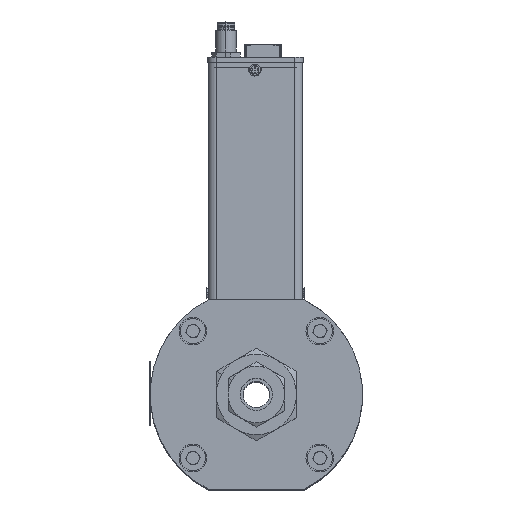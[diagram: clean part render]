
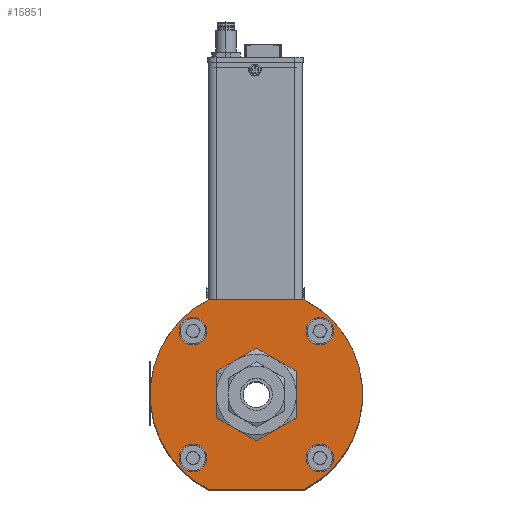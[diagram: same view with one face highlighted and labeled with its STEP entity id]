
A CAD part, top view. The second image highlights one B-rep face of the part: STEP entity #15851.
In plain terms, the highlighted planar face has unit normal (0, 0, 1).
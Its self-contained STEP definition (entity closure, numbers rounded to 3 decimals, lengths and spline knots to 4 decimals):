
#123 = DIRECTION ( 'NONE',  ( 0., 0., -1. ) ) ;
#139 = VECTOR ( 'NONE', #4485, 39.3701 ) ;
#564 = EDGE_CURVE ( 'NONE', #19852, #14832, #64936, .T. ) ;
#593 = CARTESIAN_POINT ( 'NONE',  ( -0.9748, 2.4579, 0. ) ) ;
#1728 = CARTESIAN_POINT ( 'NONE',  ( 1.0018, 0.2648, 0. ) ) ;
#2309 = DIRECTION ( 'NONE',  ( 0., 0., -1. ) ) ;
#2520 = CARTESIAN_POINT ( 'NONE',  ( 0.7659, 2.942, 0. ) ) ;
#2967 = PLANE ( 'NONE',  #41680 ) ;
#3198 = EDGE_LOOP ( 'NONE', ( #27589, #78157 ) ) ;
#4469 = AXIS2_PLACEMENT_3D ( 'NONE', #36686, #49837, #23149 ) ;
#4485 = DIRECTION ( 'NONE',  ( -1., 0., 0. ) ) ;
#4510 = VERTEX_POINT ( 'NONE', #82015 ) ;
#6005 = AXIS2_PLACEMENT_3D ( 'NONE', #20526, #47226, #71623 ) ;
#7827 = EDGE_LOOP ( 'NONE', ( #79501, #18750 ) ) ;
#9178 = DIRECTION ( 'NONE',  ( 0., -1., 0. ) ) ;
#9268 = LINE ( 'NONE', #55718, #63637 ) ;
#10305 = DIRECTION ( 'NONE',  ( 0., 1., 0. ) ) ;
#10397 = DIRECTION ( 'NONE',  ( 0., 1., 0. ) ) ;
#10950 = CARTESIAN_POINT ( 'NONE',  ( -0.9748, 2.6744, 0. ) ) ;
#11001 = EDGE_CURVE ( 'NONE', #50097, #48758, #49764, .T. ) ;
#12013 = ORIENTED_EDGE ( 'NONE', *, *, #59746, .T. ) ;
#13518 = AXIS2_PLACEMENT_3D ( 'NONE', #22793, #82365, #9178 ) ;
#14468 = EDGE_CURVE ( 'NONE', #30478, #51577, #40470, .T. ) ;
#14832 = VERTEX_POINT ( 'NONE', #51590 ) ;
#15265 = AXIS2_PLACEMENT_3D ( 'NONE', #33137, #32295, #71732 ) ;
#15851 = ADVANCED_FACE ( 'NONE', ( #49825, #62994, #16544, #23136, #84439, #76566 ), #2967, .T. ) ;
#16139 = CARTESIAN_POINT ( 'NONE',  ( 1.0018, 0.4813, 0. ) ) ;
#16544 = FACE_BOUND ( 'NONE', #19234, .T. ) ;
#18750 = ORIENTED_EDGE ( 'NONE', *, *, #564, .T. ) ;
#19234 = EDGE_LOOP ( 'NONE', ( #51996, #23472 ) ) ;
#19351 = EDGE_LOOP ( 'NONE', ( #36191, #21175 ) ) ;
#19852 = VERTEX_POINT ( 'NONE', #10950 ) ;
#20526 = CARTESIAN_POINT ( 'NONE',  ( 0.0135, 1.4696, 0. ) ) ;
#21175 = ORIENTED_EDGE ( 'NONE', *, *, #79404, .T. ) ;
#22793 = CARTESIAN_POINT ( 'NONE',  ( 1.0018, 0.4813, 0. ) ) ;
#23136 = FACE_BOUND ( 'NONE', #7827, .T. ) ;
#23149 = DIRECTION ( 'NONE',  ( 0., -1., 0. ) ) ;
#23316 = CIRCLE ( 'NONE', #13518, 0.2165 ) ;
#23472 = ORIENTED_EDGE ( 'NONE', *, *, #56196, .T. ) ;
#24208 = DIRECTION ( 'NONE',  ( 0., 0., -1. ) ) ;
#24308 = DIRECTION ( 'NONE',  ( 0., 0., -1. ) ) ;
#24463 = DIRECTION ( 'NONE',  ( 0., -1., 0. ) ) ;
#24960 = AXIS2_PLACEMENT_3D ( 'NONE', #73286, #123, #26015 ) ;
#25277 = CARTESIAN_POINT ( 'NONE',  ( -0.9748, 0.4813, 0. ) ) ;
#26015 = DIRECTION ( 'NONE',  ( 0., -1., 0. ) ) ;
#27187 = AXIS2_PLACEMENT_3D ( 'NONE', #593, #2309, #60633 ) ;
#27589 = ORIENTED_EDGE ( 'NONE', *, *, #60648, .T. ) ;
#27955 = VERTEX_POINT ( 'NONE', #57811 ) ;
#29139 = EDGE_CURVE ( 'NONE', #27955, #39433, #29794, .T. ) ;
#29794 = CIRCLE ( 'NONE', #6005, 0.5748 ) ;
#30478 = VERTEX_POINT ( 'NONE', #51162 ) ;
#31206 = CARTESIAN_POINT ( 'NONE',  ( 1.0018, 0.6978, 0. ) ) ;
#31418 = VERTEX_POINT ( 'NONE', #81042 ) ;
#32295 = DIRECTION ( 'NONE',  ( 0., 0., -1. ) ) ;
#32913 = CIRCLE ( 'NONE', #60902, 0.2165 ) ;
#33137 = CARTESIAN_POINT ( 'NONE',  ( 1.0018, 2.4579, 0. ) ) ;
#33226 = CIRCLE ( 'NONE', #24960, 0.2165 ) ;
#34365 = VERTEX_POINT ( 'NONE', #1728 ) ;
#36191 = ORIENTED_EDGE ( 'NONE', *, *, #63290, .T. ) ;
#36293 = AXIS2_PLACEMENT_3D ( 'NONE', #47247, #66146, #72256 ) ;
#36686 = CARTESIAN_POINT ( 'NONE',  ( -0.9748, 0.4813, 0. ) ) ;
#36960 = CIRCLE ( 'NONE', #41183, 0.2165 ) ;
#37301 = DIRECTION ( 'NONE',  ( 0., 1., 0. ) ) ;
#37560 = ORIENTED_EDGE ( 'NONE', *, *, #14468, .T. ) ;
#39433 = VERTEX_POINT ( 'NONE', #79985 ) ;
#40470 = CIRCLE ( 'NONE', #36293, 1.6535 ) ;
#41183 = AXIS2_PLACEMENT_3D ( 'NONE', #78588, #24308, #65450 ) ;
#41587 = EDGE_CURVE ( 'NONE', #14832, #19852, #36960, .T. ) ;
#41680 = AXIS2_PLACEMENT_3D ( 'NONE', #70435, #43247, #10397 ) ;
#42605 = VERTEX_POINT ( 'NONE', #31206 ) ;
#42900 = VERTEX_POINT ( 'NONE', #84179 ) ;
#43156 = CARTESIAN_POINT ( 'NONE',  ( 0.0135, 1.4696, 0. ) ) ;
#43247 = DIRECTION ( 'NONE',  ( 0., 0., 1. ) ) ;
#43713 = DIRECTION ( 'NONE',  ( 0., 0., -1. ) ) ;
#43808 = EDGE_CURVE ( 'NONE', #4510, #42900, #33226, .T. ) ;
#44859 = DIRECTION ( 'NONE',  ( 0., 0., 1. ) ) ;
#44967 = EDGE_LOOP ( 'NONE', ( #12013, #72010 ) ) ;
#45074 = CIRCLE ( 'NONE', #68877, 0.2165 ) ;
#47226 = DIRECTION ( 'NONE',  ( 0., 0., -1. ) ) ;
#47247 = CARTESIAN_POINT ( 'NONE',  ( 0.0135, 1.4696, 0. ) ) ;
#48758 = VERTEX_POINT ( 'NONE', #2520 ) ;
#48837 = CIRCLE ( 'NONE', #15265, 0.2165 ) ;
#49130 = DIRECTION ( 'NONE',  ( 1., 0., 0. ) ) ;
#49764 = CIRCLE ( 'NONE', #84734, 1.6535 ) ;
#49825 = FACE_OUTER_BOUND ( 'NONE', #56864, .T. ) ;
#49837 = DIRECTION ( 'NONE',  ( 0., 0., -1. ) ) ;
#49886 = EDGE_CURVE ( 'NONE', #70147, #31418, #80024, .T. ) ;
#50097 = VERTEX_POINT ( 'NONE', #60744 ) ;
#51162 = CARTESIAN_POINT ( 'NONE',  ( -0.7389, 2.942, 0. ) ) ;
#51576 = ORIENTED_EDGE ( 'NONE', *, *, #77772, .T. ) ;
#51577 = VERTEX_POINT ( 'NONE', #74451 ) ;
#51590 = CARTESIAN_POINT ( 'NONE',  ( -0.9748, 2.2413, 0. ) ) ;
#51996 = ORIENTED_EDGE ( 'NONE', *, *, #43808, .T. ) ;
#54786 = AXIS2_PLACEMENT_3D ( 'NONE', #58358, #24208, #37301 ) ;
#55718 = CARTESIAN_POINT ( 'NONE',  ( 0.0135, -0.0029, 0. ) ) ;
#56196 = EDGE_CURVE ( 'NONE', #42900, #4510, #48837, .T. ) ;
#56864 = EDGE_LOOP ( 'NONE', ( #64073, #37560, #51576, #58722 ) ) ;
#57811 = CARTESIAN_POINT ( 'NONE',  ( 0.0135, 0.8948, 0. ) ) ;
#58170 = EDGE_CURVE ( 'NONE', #48758, #30478, #85545, .T. ) ;
#58358 = CARTESIAN_POINT ( 'NONE',  ( 0.0135, 1.4696, 0. ) ) ;
#58722 = ORIENTED_EDGE ( 'NONE', *, *, #11001, .T. ) ;
#59746 = EDGE_CURVE ( 'NONE', #31418, #70147, #45074, .T. ) ;
#60633 = DIRECTION ( 'NONE',  ( 0., -1., 0. ) ) ;
#60648 = EDGE_CURVE ( 'NONE', #39433, #27955, #78549, .T. ) ;
#60744 = CARTESIAN_POINT ( 'NONE',  ( 0.7659, -0.0029, 0. ) ) ;
#60902 = AXIS2_PLACEMENT_3D ( 'NONE', #16139, #43713, #24463 ) ;
#62994 = FACE_BOUND ( 'NONE', #3198, .T. ) ;
#63290 = EDGE_CURVE ( 'NONE', #34365, #42605, #32913, .T. ) ;
#63637 = VECTOR ( 'NONE', #49130, 39.3701 ) ;
#64073 = ORIENTED_EDGE ( 'NONE', *, *, #58170, .T. ) ;
#64703 = DIRECTION ( 'NONE',  ( 0., -1., 0. ) ) ;
#64936 = CIRCLE ( 'NONE', #27187, 0.2165 ) ;
#65450 = DIRECTION ( 'NONE',  ( 0., -1., 0. ) ) ;
#66146 = DIRECTION ( 'NONE',  ( 0., 0., 1. ) ) ;
#68877 = AXIS2_PLACEMENT_3D ( 'NONE', #25277, #86162, #64703 ) ;
#70147 = VERTEX_POINT ( 'NONE', #72277 ) ;
#70435 = CARTESIAN_POINT ( 'NONE',  ( 0.0135, 1.4696, 0. ) ) ;
#71623 = DIRECTION ( 'NONE',  ( 0., 1., 0. ) ) ;
#71732 = DIRECTION ( 'NONE',  ( 0., -1., 0. ) ) ;
#72010 = ORIENTED_EDGE ( 'NONE', *, *, #49886, .T. ) ;
#72256 = DIRECTION ( 'NONE',  ( 0., 1., 0. ) ) ;
#72277 = CARTESIAN_POINT ( 'NONE',  ( -0.9748, 0.6978, 0. ) ) ;
#73286 = CARTESIAN_POINT ( 'NONE',  ( 1.0018, 2.4579, 0. ) ) ;
#74451 = CARTESIAN_POINT ( 'NONE',  ( -0.7389, -0.0029, 0. ) ) ;
#76566 = FACE_BOUND ( 'NONE', #44967, .T. ) ;
#77772 = EDGE_CURVE ( 'NONE', #51577, #50097, #9268, .T. ) ;
#78157 = ORIENTED_EDGE ( 'NONE', *, *, #29139, .T. ) ;
#78549 = CIRCLE ( 'NONE', #54786, 0.5748 ) ;
#78588 = CARTESIAN_POINT ( 'NONE',  ( -0.9748, 2.4579, 0. ) ) ;
#79404 = EDGE_CURVE ( 'NONE', #42605, #34365, #23316, .T. ) ;
#79501 = ORIENTED_EDGE ( 'NONE', *, *, #41587, .T. ) ;
#79985 = CARTESIAN_POINT ( 'NONE',  ( 0.0135, 2.0444, 0. ) ) ;
#80024 = CIRCLE ( 'NONE', #4469, 0.2165 ) ;
#81042 = CARTESIAN_POINT ( 'NONE',  ( -0.9748, 0.2648, 0. ) ) ;
#82015 = CARTESIAN_POINT ( 'NONE',  ( 1.0018, 2.2413, 0. ) ) ;
#82365 = DIRECTION ( 'NONE',  ( 0., 0., -1. ) ) ;
#84179 = CARTESIAN_POINT ( 'NONE',  ( 1.0018, 2.6744, 0. ) ) ;
#84439 = FACE_BOUND ( 'NONE', #19351, .T. ) ;
#84668 = CARTESIAN_POINT ( 'NONE',  ( 0.0135, 2.942, 0. ) ) ;
#84734 = AXIS2_PLACEMENT_3D ( 'NONE', #43156, #44859, #10305 ) ;
#85545 = LINE ( 'NONE', #84668, #139 ) ;
#86162 = DIRECTION ( 'NONE',  ( 0., 0., -1. ) ) ;
